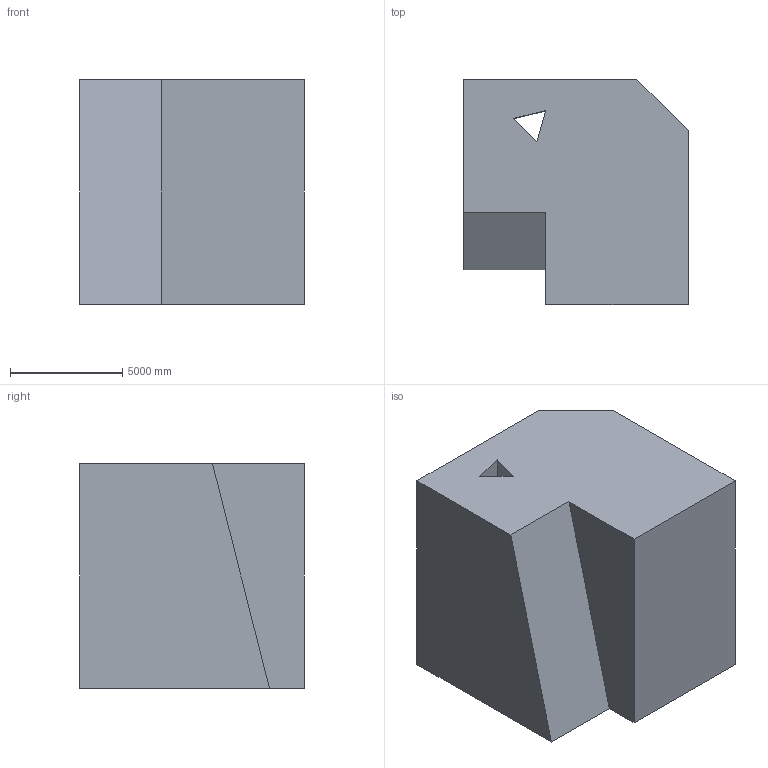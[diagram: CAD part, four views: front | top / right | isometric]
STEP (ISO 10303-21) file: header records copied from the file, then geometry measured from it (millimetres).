
FILE_DESCRIPTION (( 'STEP AP203' ), '1' );
FILE_NAME ('1359.STEP', '2022-08-18T14:02:02', ( 'user' ), ( '' ), 'SwSTEP 2.0', 'SolidWorks 2021', '' );
FILE_SCHEMA (( 'CONFIG_CONTROL_DESIGN' ));
Length unit declared in the file: centimetre
Products named in the file (1): 1359
Bounding box: 10000 x 10000 x 10000 mm (x, y, z)
Volume: 818191176258.2 mm3; surface area: 679308844.5 mm2
Topology: 1 solids, 1 shells, 18 faces, 42 edges, 28 vertices
Faces by surface type: plane 14, cylinder 4
Entity records: 595 total; most frequent: CARTESIAN_POINT 89, DIRECTION 88, ORIENTED_EDGE 84, EDGE_CURVE 42, LINE 34, VECTOR 34, VERTEX_POINT 28, AXIS2_PLACEMENT_3D 27
